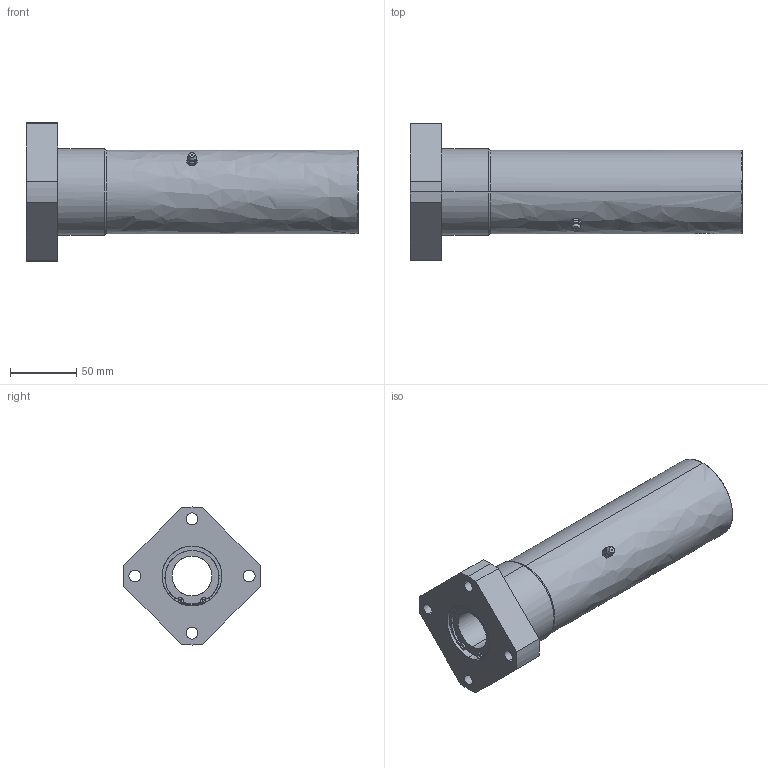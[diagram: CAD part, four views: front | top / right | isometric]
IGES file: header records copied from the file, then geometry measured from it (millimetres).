
Global section: file name: No Iges File Name specified; native system: AutoDesk Inventor R10; preprocessor: AutoDesk Inventor Iges Exporter R10; author: No Author specified; organization: No Organization specified; date: 20101214.140745; units: millimetre
Bounding box: 250 x 103.86 x 104 mm (x, y, z)
Surface area: 99014.9 mm2 (no closed solid volume)
Topology: 0 solids, 0 shells, 159 faces, 1125 edges, 1123 vertices
Faces by surface type: bspline 159
